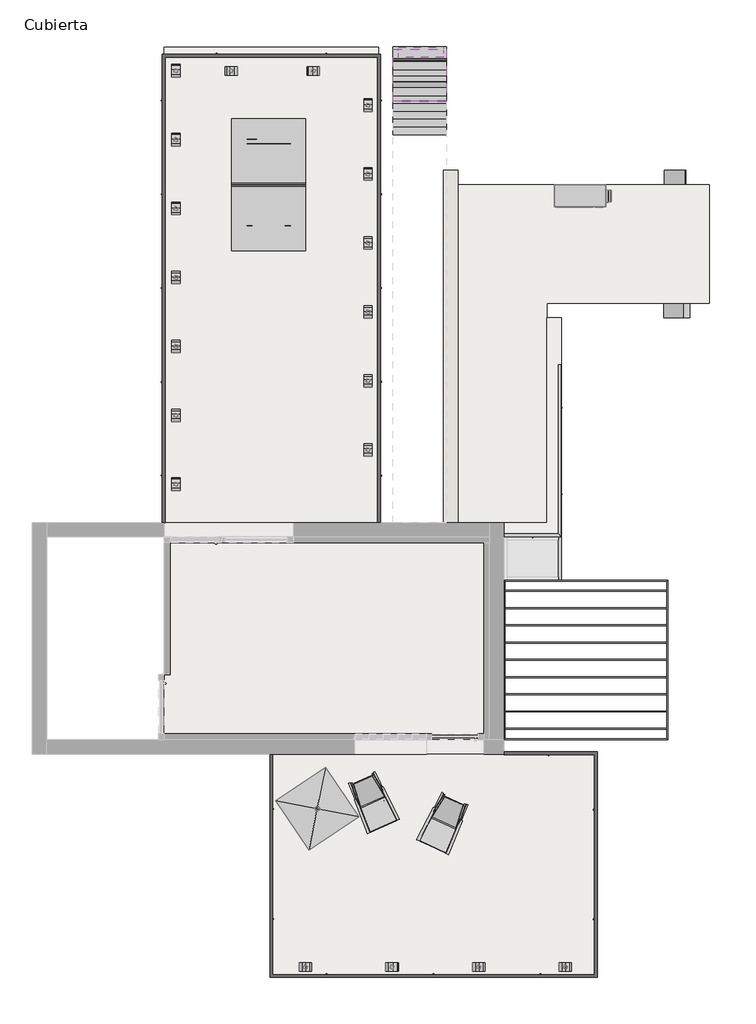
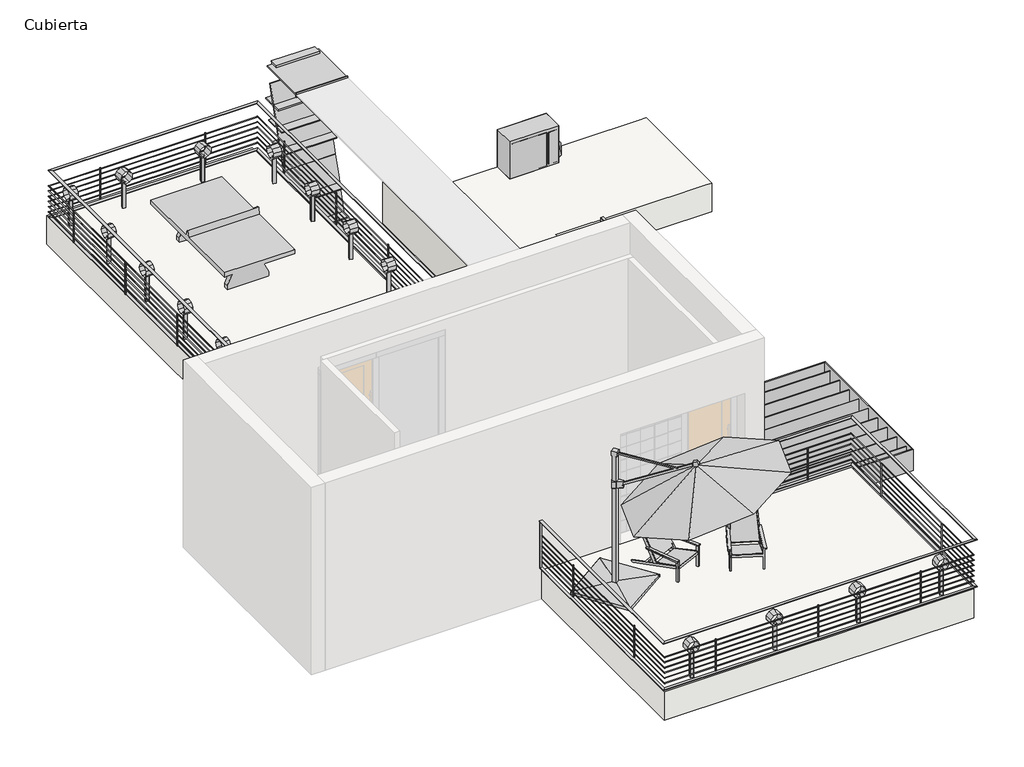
# One storey, part 3 of 3: 24 geographic elements, 14 plates, 13 beams, 11 members, 3 railings, 3 roofs, 2 slabs, 2 walls, 1 proxy.
"""IFC4 building model written with IfcOpenShell, lengths in millimetres."""

from ifc_helpers import new_model, si_unit, frame, origin, place, context, project, spatial, polyline, outline, extrude, faceted_brep, transform, mapped, element, save
from components import fl_barras_planas_fl_15x250_6944f389, generic_models_e5db0f82, geographic_element_01e02b02, geographic_element_6473c860, enscape_assetdefinition_air_conditioner_004_enscape_9204168d, enscape_assetdefinition_armchair_049_outdoor_enscape_4ad17b57, enscape_assetdefinition_outdoor_lamp_005_enscape_cb5cc8c5, montante_rectangular_montante_rectangular_1_x_9_1996176d, montante_rectangular_montante_rectangular_10_x_40_cm_63d3ba0e, montante_rectangular_montante_rectangular_5_x_10_cm_4e511d2b, panel_de_sistema_acristalado_2_678063c6, panel_de_sistema_acristalado_3_7e075f51, panel_de_sistema_acristalado_3_17f1fe4e, panel_de_sistema_acristalado_3_a226284c, panel_de_sistema_acristalado_3_9466de23, panel_de_sistema_acristalado_3_0af6a478, panel_de_sistema_acristalado_3_415e53f6, panel_de_sistema_uniforme_b9339d03, railing_87f6ecb8, railing_73caeaf0, railing_21b3ba1f

model = new_model("IFC4")

# Units and contexts
model_context = context("Model", 3, world=origin())
ifc_project = project(units=[si_unit("LENGTHUNIT", "METRE", prefix="MILLI")], contexts=[model_context])

# Site, building, storey
site = spatial("IfcSite", under=ifc_project)
building = spatial("IfcBuilding", under=site)
storey = spatial("IfcBuildingStorey", under=building, Name="Cubierta", Elevation=6000.0)

# Beams
placement = place(None, origin())
fl_barras_planas_fl_15x250_shape = fl_barras_planas_fl_15x250_6944f389(model_context)
element("IfcBeam", 1, ObjectType="FL - Barras planas : FL 15x250", at=placement, inside=storey, context=model_context, shape_type="MappedRepresentation", body=[
    mapped(fl_barras_planas_fl_15x250_shape, transform((3362.1362769, -5452.6669037, 5825.0), x_axis=(1.0, 0.0, 0.0), y_axis=(0.0, 1.0, 0.0), z_axis=(0.0, 0.0, 1.0))),
])
element("IfcBeam", 2, ObjectType="FL - Barras planas : FL 15x250", at=placement, inside=storey, context=model_context, shape_type="MappedRepresentation", body=[
    mapped(fl_barras_planas_fl_15x250_shape, transform((3362.1362769, -5752.6669037, 5825.0), x_axis=(1.0, 0.0, 0.0), y_axis=(0.0, 1.0, 0.0), z_axis=(0.0, 0.0, 1.0))),
])
element("IfcBeam", 3, ObjectType="FL - Barras planas : FL 15x250", at=placement, inside=storey, context=model_context, shape_type="MappedRepresentation", body=[
    mapped(fl_barras_planas_fl_15x250_shape, transform((3362.1362769, -6052.6669037, 5825.0), x_axis=(1.0, 0.0, 0.0), y_axis=(0.0, 1.0, 0.0), z_axis=(0.0, 0.0, 1.0))),
])
element("IfcBeam", 4, ObjectType="FL - Barras planas : FL 15x250", at=placement, inside=storey, context=model_context, shape_type="MappedRepresentation", body=[
    mapped(fl_barras_planas_fl_15x250_shape, transform((3362.1362769, -6352.6669037, 5825.0), x_axis=(1.0, 0.0, 0.0), y_axis=(0.0, 1.0, 0.0), z_axis=(0.0, 0.0, 1.0))),
])
element("IfcBeam", 5, ObjectType="FL - Barras planas : FL 15x250", at=placement, inside=storey, context=model_context, shape_type="MappedRepresentation", body=[
    mapped(fl_barras_planas_fl_15x250_shape, transform((3362.1362769, -6652.6669037, 5825.0), x_axis=(1.0, 0.0, 0.0), y_axis=(0.0, 1.0, 0.0), z_axis=(0.0, 0.0, 1.0))),
])
element("IfcBeam", 6, ObjectType="FL - Barras planas : FL 15x250", at=placement, inside=storey, context=model_context, shape_type="MappedRepresentation", body=[
    mapped(fl_barras_planas_fl_15x250_shape, transform((3362.1362769, -6952.6669037, 5825.0), x_axis=(1.0, 0.0, 0.0), y_axis=(0.0, 1.0, 0.0), z_axis=(0.0, 0.0, 1.0))),
])
element("IfcBeam", 7, ObjectType="FL - Barras planas : FL 15x250", at=placement, inside=storey, context=model_context, shape_type="MappedRepresentation", body=[
    mapped(fl_barras_planas_fl_15x250_shape, transform((3362.1362769, -7252.6669037, 5825.0), x_axis=(1.0, 0.0, 0.0), y_axis=(0.0, 1.0, 0.0), z_axis=(0.0, 0.0, 1.0))),
])
element("IfcBeam", 8, ObjectType="FL - Barras planas : FL 15x250", at=placement, inside=storey, context=model_context, shape_type="MappedRepresentation", body=[
    mapped(fl_barras_planas_fl_15x250_shape, transform((3362.1362769, -7552.6669037, 5825.0), x_axis=(1.0, 0.0, 0.0), y_axis=(0.0, 1.0, 0.0), z_axis=(0.0, 0.0, 1.0))),
])
element("IfcBeam", 9, ObjectType="FL - Barras planas : FL 15x250", at=placement, inside=storey, context=model_context, shape_type="MappedRepresentation", body=[
    mapped(fl_barras_planas_fl_15x250_shape, transform((3362.1362769, -7852.6669037, 5825.0), x_axis=(1.0, 0.0, 0.0), y_axis=(0.0, 1.0, 0.0), z_axis=(0.0, 0.0, 1.0))),
])
element("IfcBeam", 10, ObjectType="FL - Barras planas : FL 20x400", at=placement, inside=storey, context=model_context, shape_type="SweptSolid", body=[
    extrude(outline(polyline([(4768.7374579, -5282.6669037), (4788.7374579, -5262.6669037), (4788.7374579, -8042.6669037), (4768.7374579, -8022.6669037), (4768.7374579, -5282.6669037)])), frame((0.0, 0.0, 5600.0), z_axis=(0.0, 0.0, 1.0), x_axis=(1.0, 0.0, 0.0)), (0.0, 0.0, 1.0), 400.0),
])
element("IfcBeam", 11, ObjectType="FL - Barras planas : FL 20x400", at=placement, inside=storey, context=model_context, shape_type="SweptSolid", body=[
    extrude(outline(polyline([(4768.7374579, -8022.6669037), (4788.7374579, -8042.6669037), (1935.5350958, -8042.6669037), (1955.5350958, -8022.6669037), (4768.7374579, -8022.6669037)])), frame((0.0, 0.0, 5600.0), z_axis=(0.0, 0.0, 1.0), x_axis=(1.0, 0.0, 0.0)), (0.0, 0.0, 1.0), 400.0),
])
element("IfcBeam", 12, ObjectType="FL - Barras planas : FL 20x400", at=placement, inside=storey, context=model_context, shape_type="SweptSolid", body=[
    extrude(outline(polyline([(1955.5350958, -8022.6669037), (1935.5350958, -8042.6669037), (1935.5350958, -5262.6669037), (1955.5350958, -5282.6669037), (1955.5350958, -8022.6669037)])), frame((0.0, 0.0, 5600.0), z_axis=(0.0, 0.0, 1.0), x_axis=(1.0, 0.0, 0.0)), (0.0, 0.0, 1.0), 400.0),
])
element("IfcBeam", 13, ObjectType="FL - Barras planas : FL 20x400", at=placement, inside=storey, context=model_context, shape_type="SweptSolid", body=[
    extrude(outline(polyline([(1955.5350958, -5282.6669037), (1935.5350958, -5262.6669037), (4788.7374579, -5262.6669037), (4768.7374579, -5282.6669037), (1955.5350958, -5282.6669037)])), frame((0.0, 0.0, 5600.0), z_axis=(0.0, 0.0, 1.0), x_axis=(1.0, 0.0, 0.0)), (0.0, 0.0, 1.0), 400.0),
])

# Proxy
generic_models_shape = generic_models_e5db0f82(model_context)
element("IfcBuildingElementProxy", 14, Name="Marco angulo : Marco angulo", ObjectType="Marco angulo : Marco angulo", at=placement, inside=storey, context=model_context, shape_type="MappedRepresentation", body=[
    mapped(generic_models_shape, transform((0.0, 0.0, 0.0), x_axis=(1.0, 0.0, 0.0), y_axis=(0.0, 1.0, 0.0), z_axis=(0.0, 0.0, 1.0))),
])

# Geographic elements
geographic_element_shape = geographic_element_01e02b02(model_context)
element("IfcGeographicElement", 15, ObjectType="Enscape AssetDefinition - Sunshade 001 : Enscape AssetDefinition - Sunshade 001", at=placement, inside=storey, context=model_context, shape_type="MappedRepresentation", body=[
    mapped(geographic_element_shape, transform((-1316.5430875, -9242.6669037, 6250.0), x_axis=(0.7547095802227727, -0.6560590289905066, 0.0), y_axis=(0.6560590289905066, 0.7547095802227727, 0.0), z_axis=(0.0, 0.0, 1.0))),
])
geographic_element_2_shape = geographic_element_6473c860(model_context)
element("IfcGeographicElement", 16, ObjectType="Enscape AssetDefinition - Ping-Pong Table 001 : Enscape AssetDefinition - Ping-Pong Table 001", at=placement, inside=storey, context=model_context, shape_type="MappedRepresentation", body=[
    mapped(geographic_element_2_shape, transform((-2163.1025942, 1619.072658, 6250.0), x_axis=(1.0, 0.0, 0.0), y_axis=(0.0, 1.0, 0.0), z_axis=(0.0, 0.0, 1.0))),
])
enscape_assetdefinition_air_conditioner_004_enscape_shape = enscape_assetdefinition_air_conditioner_004_enscape_9204168d(model_context)
element("IfcGeographicElement", 17, ObjectType="Enscape AssetDefinition - Air Conditioner 004 : Enscape AssetDefinition - Air Conditioner 004", at=placement, inside=storey, context=model_context, shape_type="MappedRepresentation", body=[
    mapped(enscape_assetdefinition_air_conditioner_004_enscape_shape, transform((3230.6115806, 1387.4022959, 6250.0), x_axis=(1.0, 0.0, 0.0), y_axis=(0.0, 1.0, 0.0), z_axis=(0.0, 0.0, 1.0))),
])
enscape_assetdefinition_armchair_049_outdoor_enscape_shape = enscape_assetdefinition_armchair_049_outdoor_enscape_4ad17b57(model_context)
element("IfcGeographicElement", 18, ObjectType="Enscape AssetDefinition - Armchair 049 Outdoor : Enscape AssetDefinition - Armchair 049 Outdoor", at=placement, inside=storey, context=model_context, shape_type="MappedRepresentation", body=[
    mapped(enscape_assetdefinition_armchair_049_outdoor_enscape_shape, transform((886.8974058, -9492.6669037, 6250.0), x_axis=(0.9068449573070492, -0.42146437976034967, 0.0), y_axis=(0.42146437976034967, 0.9068449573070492, 0.0), z_axis=(0.0, 0.0, 1.0))),
])
element("IfcGeographicElement", 19, ObjectType="Enscape AssetDefinition - Armchair 049 Outdoor : Enscape AssetDefinition - Armchair 049 Outdoor", at=placement, inside=storey, context=model_context, shape_type="MappedRepresentation", body=[
    mapped(enscape_assetdefinition_armchair_049_outdoor_enscape_shape, transform((-350.8601801, -9129.5831029, 6250.0), x_axis=(0.9135454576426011, 0.4067366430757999, 0.0), y_axis=(-0.4067366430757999, 0.9135454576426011, 0.0), z_axis=(0.0, 0.0, 1.0))),
])
enscape_assetdefinition_outdoor_lamp_005_enscape_shape = enscape_assetdefinition_outdoor_lamp_005_enscape_cb5cc8c5(model_context)
element("IfcGeographicElement", 20, ObjectType="Enscape AssetDefinition - Outdoor Lamp 005 : Enscape AssetDefinition - Outdoor Lamp 005", at=placement, inside=storey, context=model_context, shape_type="MappedRepresentation", body=[
    mapped(enscape_assetdefinition_outdoor_lamp_005_enscape_shape, transform((-3781.0601801, 3600.0, 6250.0), x_axis=(0.0, 1.0, 0.0), y_axis=(-1.0, 0.0, 0.0), z_axis=(0.0, 0.0, 1.0))),
])
element("IfcGeographicElement", 21, ObjectType="Enscape AssetDefinition - Outdoor Lamp 005 : Enscape AssetDefinition - Outdoor Lamp 005", at=placement, inside=storey, context=model_context, shape_type="MappedRepresentation", body=[
    mapped(enscape_assetdefinition_outdoor_lamp_005_enscape_shape, transform((2998.9398199, -12000.0, 6250.0), x_axis=(1.0, 0.0, 0.0), y_axis=(0.0, 1.0, 0.0), z_axis=(0.0, 0.0, 1.0))),
])
element("IfcGeographicElement", 22, ObjectType="Enscape AssetDefinition - Outdoor Lamp 005 : Enscape AssetDefinition - Outdoor Lamp 005", at=placement, inside=storey, context=model_context, shape_type="MappedRepresentation", body=[
    mapped(enscape_assetdefinition_outdoor_lamp_005_enscape_shape, transform((1491.6012558, -12000.0, 6250.0), x_axis=(1.0, 0.0, 0.0), y_axis=(0.0, 1.0, 0.0), z_axis=(0.0, 0.0, 1.0))),
])
element("IfcGeographicElement", 23, ObjectType="Enscape AssetDefinition - Outdoor Lamp 005 : Enscape AssetDefinition - Outdoor Lamp 005", at=placement, inside=storey, context=model_context, shape_type="MappedRepresentation", body=[
    mapped(enscape_assetdefinition_outdoor_lamp_005_enscape_shape, transform((-18.3987442, -12000.0, 6250.0), x_axis=(1.0, 0.0, 0.0), y_axis=(0.0, 1.0, 0.0), z_axis=(0.0, 0.0, 1.0))),
])
element("IfcGeographicElement", 24, ObjectType="Enscape AssetDefinition - Outdoor Lamp 005 : Enscape AssetDefinition - Outdoor Lamp 005", at=placement, inside=storey, context=model_context, shape_type="MappedRepresentation", body=[
    mapped(enscape_assetdefinition_outdoor_lamp_005_enscape_shape, transform((-1528.3987442, -12000.0, 6250.0), x_axis=(1.0, 0.0, 0.0), y_axis=(0.0, 1.0, 0.0), z_axis=(0.0, 0.0, 1.0))),
])
element("IfcGeographicElement", 25, ObjectType="Enscape AssetDefinition - Outdoor Lamp 005 : Enscape AssetDefinition - Outdoor Lamp 005", at=placement, inside=storey, context=model_context, shape_type="MappedRepresentation", body=[
    mapped(enscape_assetdefinition_outdoor_lamp_005_enscape_shape, transform((-3781.0601801, 2400.0, 6250.0), x_axis=(0.0, 1.0, 0.0), y_axis=(-1.0, 0.0, 0.0), z_axis=(0.0, 0.0, 1.0))),
])
element("IfcGeographicElement", 26, ObjectType="Enscape AssetDefinition - Outdoor Lamp 005 : Enscape AssetDefinition - Outdoor Lamp 005", at=placement, inside=storey, context=model_context, shape_type="MappedRepresentation", body=[
    mapped(enscape_assetdefinition_outdoor_lamp_005_enscape_shape, transform((-3781.0601801, 1200.0, 6250.0), x_axis=(0.0, 1.0, 0.0), y_axis=(-1.0, 0.0, 0.0), z_axis=(0.0, 0.0, 1.0))),
])
element("IfcGeographicElement", 27, ObjectType="Enscape AssetDefinition - Outdoor Lamp 005 : Enscape AssetDefinition - Outdoor Lamp 005", at=placement, inside=storey, context=model_context, shape_type="MappedRepresentation", body=[
    mapped(enscape_assetdefinition_outdoor_lamp_005_enscape_shape, transform((-3781.0601801, 0.0, 6250.0), x_axis=(0.0, 1.0, 0.0), y_axis=(-1.0, 0.0, 0.0), z_axis=(0.0, 0.0, 1.0))),
])
element("IfcGeographicElement", 28, ObjectType="Enscape AssetDefinition - Outdoor Lamp 005 : Enscape AssetDefinition - Outdoor Lamp 005", at=placement, inside=storey, context=model_context, shape_type="MappedRepresentation", body=[
    mapped(enscape_assetdefinition_outdoor_lamp_005_enscape_shape, transform((-3781.0601801, -1200.0, 6250.0), x_axis=(0.0, 1.0, 0.0), y_axis=(-1.0, 0.0, 0.0), z_axis=(0.0, 0.0, 1.0))),
])
element("IfcGeographicElement", 29, ObjectType="Enscape AssetDefinition - Outdoor Lamp 005 : Enscape AssetDefinition - Outdoor Lamp 005", at=placement, inside=storey, context=model_context, shape_type="MappedRepresentation", body=[
    mapped(enscape_assetdefinition_outdoor_lamp_005_enscape_shape, transform((-3781.0601801, -2400.0, 6250.0), x_axis=(0.0, 1.0, 0.0), y_axis=(-1.0, 0.0, 0.0), z_axis=(0.0, 0.0, 1.0))),
])
element("IfcGeographicElement", 30, ObjectType="Enscape AssetDefinition - Outdoor Lamp 005 : Enscape AssetDefinition - Outdoor Lamp 005", at=placement, inside=storey, context=model_context, shape_type="MappedRepresentation", body=[
    mapped(enscape_assetdefinition_outdoor_lamp_005_enscape_shape, transform((-3781.0601801, -3600.0, 6250.0), x_axis=(0.0, 1.0, 0.0), y_axis=(-1.0, 0.0, 0.0), z_axis=(0.0, 0.0, 1.0))),
])
element("IfcGeographicElement", 31, ObjectType="Enscape AssetDefinition - Outdoor Lamp 005 : Enscape AssetDefinition - Outdoor Lamp 005", at=placement, inside=storey, context=model_context, shape_type="MappedRepresentation", body=[
    mapped(enscape_assetdefinition_outdoor_lamp_005_enscape_shape, transform((-431.9203602, -3000.0, 6250.0), x_axis=(0.0, 1.0, 0.0), y_axis=(-1.0, 0.0, 0.0), z_axis=(0.0, 0.0, 1.0))),
])
element("IfcGeographicElement", 32, ObjectType="Enscape AssetDefinition - Outdoor Lamp 005 : Enscape AssetDefinition - Outdoor Lamp 005", at=placement, inside=storey, context=model_context, shape_type="MappedRepresentation", body=[
    mapped(enscape_assetdefinition_outdoor_lamp_005_enscape_shape, transform((-431.9203602, -1800.0, 6250.0), x_axis=(0.0, 1.0, 0.0), y_axis=(-1.0, 0.0, 0.0), z_axis=(0.0, 0.0, 1.0))),
])
element("IfcGeographicElement", 33, ObjectType="Enscape AssetDefinition - Outdoor Lamp 005 : Enscape AssetDefinition - Outdoor Lamp 005", at=placement, inside=storey, context=model_context, shape_type="MappedRepresentation", body=[
    mapped(enscape_assetdefinition_outdoor_lamp_005_enscape_shape, transform((-431.9203602, -600.0, 6250.0), x_axis=(0.0, 1.0, 0.0), y_axis=(-1.0, 0.0, 0.0), z_axis=(0.0, 0.0, 1.0))),
])
element("IfcGeographicElement", 34, ObjectType="Enscape AssetDefinition - Outdoor Lamp 005 : Enscape AssetDefinition - Outdoor Lamp 005", at=placement, inside=storey, context=model_context, shape_type="MappedRepresentation", body=[
    mapped(enscape_assetdefinition_outdoor_lamp_005_enscape_shape, transform((-431.9203602, 600.0, 6250.0), x_axis=(0.0, 1.0, 0.0), y_axis=(-1.0, 0.0, 0.0), z_axis=(0.0, 0.0, 1.0))),
])
element("IfcGeographicElement", 35, ObjectType="Enscape AssetDefinition - Outdoor Lamp 005 : Enscape AssetDefinition - Outdoor Lamp 005", at=placement, inside=storey, context=model_context, shape_type="MappedRepresentation", body=[
    mapped(enscape_assetdefinition_outdoor_lamp_005_enscape_shape, transform((-431.9203602, 1800.0, 6250.0), x_axis=(0.0, 1.0, 0.0), y_axis=(-1.0, 0.0, 0.0), z_axis=(0.0, 0.0, 1.0))),
])
element("IfcGeographicElement", 36, ObjectType="Enscape AssetDefinition - Outdoor Lamp 005 : Enscape AssetDefinition - Outdoor Lamp 005", at=placement, inside=storey, context=model_context, shape_type="MappedRepresentation", body=[
    mapped(enscape_assetdefinition_outdoor_lamp_005_enscape_shape, transform((-431.9203602, 3000.0, 6250.0), x_axis=(0.0, 1.0, 0.0), y_axis=(-1.0, 0.0, 0.0), z_axis=(0.0, 0.0, 1.0))),
])
element("IfcGeographicElement", 37, ObjectType="Enscape AssetDefinition - Outdoor Lamp 005 : Enscape AssetDefinition - Outdoor Lamp 005", at=placement, inside=storey, context=model_context, shape_type="MappedRepresentation", body=[
    mapped(enscape_assetdefinition_outdoor_lamp_005_enscape_shape, transform((-1381.0601801, 3602.3330963, 6250.0), x_axis=(-1.0, 0.0, 0.0), y_axis=(0.0, -1.0, 0.0), z_axis=(0.0, 0.0, 1.0))),
])
element("IfcGeographicElement", 38, ObjectType="Enscape AssetDefinition - Outdoor Lamp 005 : Enscape AssetDefinition - Outdoor Lamp 005", at=placement, inside=storey, context=model_context, shape_type="MappedRepresentation", body=[
    mapped(enscape_assetdefinition_outdoor_lamp_005_enscape_shape, transform((-2812.1203602, 3602.3330963, 6250.0), x_axis=(-1.0, 0.0, 0.0), y_axis=(0.0, -1.0, 0.0), z_axis=(0.0, 0.0, 1.0))),
])

# Members
montante_rectangular_montante_rectangular_1_x_9_shape = montante_rectangular_montante_rectangular_1_x_9_1996176d(model_context)
element("IfcMember", 39, ObjectType="Montante rectangular : Montante rectangular - 1 x 9", at=placement, inside=storey, context=model_context, shape_type="MappedRepresentation", body=[
    mapped(montante_rectangular_montante_rectangular_1_x_9_shape, transform((935.5350958, 3069.5553185, 7640.0), x_axis=(0.0, -1.0, 0.0), y_axis=(0.0, 0.0, -1.0), z_axis=(1.0, 0.0, 0.0))),
])
montante_rectangular_montante_rectangular_10_x_40_cm_shape = montante_rectangular_montante_rectangular_10_x_40_cm_63d3ba0e(model_context)
element("IfcMember", 40, ObjectType="Montante rectangular : Montante rectangular - 10 x 40 cm", at=placement, inside=storey, context=model_context, shape_type="MappedRepresentation", body=[
    mapped(montante_rectangular_montante_rectangular_10_x_40_cm_shape, transform((-0.8563883, 2740.4626312, 3153.0345505), x_axis=(0.0, 0.2726025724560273, 0.9621267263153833), y_axis=(0.0, 0.9621267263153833, -0.2726025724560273), z_axis=(-1.0, 0.0, 0.0))),
])
element("IfcMember", 41, ObjectType="Montante rectangular : Montante rectangular - 10 x 40 cm", at=placement, inside=storey, context=model_context, shape_type="MappedRepresentation", body=[
    mapped(montante_rectangular_montante_rectangular_10_x_40_cm_shape, transform((-0.8563883, 2876.4143555, 3632.8641659), x_axis=(0.0, 0.2726025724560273, 0.9621267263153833), y_axis=(0.0, 0.9621267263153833, -0.2726025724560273), z_axis=(-1.0, 0.0, 0.0))),
])
element("IfcMember", 42, ObjectType="Montante rectangular : Montante rectangular - 10 x 40 cm", at=placement, inside=storey, context=model_context, shape_type="MappedRepresentation", body=[
    mapped(montante_rectangular_montante_rectangular_10_x_40_cm_shape, transform((-0.8563883, 3012.3660798, 4112.6937812), x_axis=(0.0, 0.2726025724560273, 0.9621267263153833), y_axis=(0.0, 0.9621267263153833, -0.2726025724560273), z_axis=(-1.0, 0.0, 0.0))),
])
element("IfcMember", 43, ObjectType="Montante rectangular : Montante rectangular - 10 x 40 cm", at=placement, inside=storey, context=model_context, shape_type="MappedRepresentation", body=[
    mapped(montante_rectangular_montante_rectangular_10_x_40_cm_shape, transform((-0.8563883, 3148.3178042, 4592.5233965), x_axis=(0.0, 0.2726025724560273, 0.9621267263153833), y_axis=(0.0, 0.9621267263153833, -0.2726025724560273), z_axis=(-1.0, 0.0, 0.0))),
])
element("IfcMember", 44, ObjectType="Montante rectangular : Montante rectangular - 10 x 40 cm", at=placement, inside=storey, context=model_context, shape_type="MappedRepresentation", body=[
    mapped(montante_rectangular_montante_rectangular_10_x_40_cm_shape, transform((-0.8563883, 3284.2695285, 5072.3530118), x_axis=(0.0, 0.2726025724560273, 0.9621267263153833), y_axis=(0.0, 0.9621267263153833, -0.2726025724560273), z_axis=(-1.0, 0.0, 0.0))),
])
element("IfcMember", 45, ObjectType="Montante rectangular : Montante rectangular - 10 x 40 cm", at=placement, inside=storey, context=model_context, shape_type="MappedRepresentation", body=[
    mapped(montante_rectangular_montante_rectangular_10_x_40_cm_shape, transform((-0.8563883, 3657.8641736, 6371.7694418), x_axis=(0.0, 0.28633736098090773, 0.9581288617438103), y_axis=(0.0, 0.9581288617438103, -0.28633736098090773), z_axis=(-1.0, 0.0, 0.0))),
])
element("IfcMember", 46, ObjectType="Montante rectangular : Montante rectangular - 10 x 40 cm", at=placement, inside=storey, context=model_context, shape_type="MappedRepresentation", body=[
    mapped(montante_rectangular_montante_rectangular_10_x_40_cm_shape, transform((-0.8563883, 3765.341942, 6731.4065899), x_axis=(0.0, 0.28633736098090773, 0.9581288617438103), y_axis=(0.0, 0.9581288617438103, -0.28633736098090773), z_axis=(-1.0, 0.0, 0.0))),
])
element("IfcMember", 47, ObjectType="Montante rectangular : Montante rectangular - 10 x 40 cm", at=placement, inside=storey, context=model_context, shape_type="MappedRepresentation", body=[
    mapped(montante_rectangular_montante_rectangular_10_x_40_cm_shape, transform((-0.8563883, 3420.2212528, 5552.1826271), x_axis=(0.0, 0.2726025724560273, 0.9621267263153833), y_axis=(0.0, 0.9621267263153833, -0.2726025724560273), z_axis=(-1.0, 0.0, 0.0))),
])
element("IfcMember", 48, ObjectType="Montante rectangular : Montante rectangular - 10 x 40 cm", at=placement, inside=storey, context=model_context, shape_type="MappedRepresentation", body=[
    mapped(montante_rectangular_montante_rectangular_10_x_40_cm_shape, transform((-0.8563883, 3872.8197104, 7091.0437381), x_axis=(0.0, 0.28633736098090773, 0.9581288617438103), y_axis=(0.0, 0.9581288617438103, -0.28633736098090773), z_axis=(-1.0, 0.0, 0.0))),
])
montante_rectangular_montante_rectangular_5_x_10_cm_shape = montante_rectangular_montante_rectangular_5_x_10_cm_4e511d2b(model_context)
element("IfcMember", 49, ObjectType="Montante rectangular : Montante rectangular - 5 x 10 cm", at=placement, inside=storey, context=model_context, shape_type="MappedRepresentation", body=[
    mapped(montante_rectangular_montante_rectangular_5_x_10_cm_shape, transform((2935.5350958, -4512.6669037, 5650.0), x_axis=(1.0, 0.0, 0.0), y_axis=(0.0, 0.0, -1.0), z_axis=(0.0, 1.0, 0.0))),
])

# Plates
panel_de_sistema_acristalado_2_shape = panel_de_sistema_acristalado_2_678063c6(model_context)
element("IfcPlate", 50, ObjectType="Panel de sistema : Acristalado 2", at=placement, inside=storey, context=model_context, shape_type="MappedRepresentation", body=[
    mapped(panel_de_sistema_acristalado_2_shape, transform((4945.3152245, -443.1853621, 1883.9616625), x_axis=(-0.15973462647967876, 0.0, -0.987159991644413), y_axis=(-0.987159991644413, 0.0, 0.15973462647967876), z_axis=(0.0, 1.0, 0.0))),
])
panel_de_sistema_acristalado_3_shape = panel_de_sistema_acristalado_3_7e075f51(model_context)
element("IfcPlate", 51, ObjectType="Panel de sistema : Acristalado 3", at=placement, inside=storey, context=model_context, shape_type="MappedRepresentation", body=[
    mapped(panel_de_sistema_acristalado_3_shape, transform((-0.8563883, 3604.1194308, 6191.931264), x_axis=(0.0, 0.28633736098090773, 0.9581288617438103), y_axis=(0.0, -0.9581288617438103, 0.28633736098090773), z_axis=(1.0, 0.0, 0.0))),
])
element("IfcPlate", 52, ObjectType="Panel de sistema : Acristalado 3", at=placement, inside=storey, context=model_context, shape_type="MappedRepresentation", body=[
    mapped(panel_de_sistema_acristalado_3_shape, transform((-0.8563883, 3926.5644532, 7270.8819159), x_axis=(0.0, 0.28633736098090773, 0.9581288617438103), y_axis=(0.0, -0.9581288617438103, 0.28633736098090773), z_axis=(1.0, 0.0, 0.0))),
])
panel_de_sistema_acristalado_3_2_shape = panel_de_sistema_acristalado_3_17f1fe4e(model_context)
element("IfcPlate", 53, ObjectType="Panel de sistema : Acristalado 3", at=placement, inside=storey, context=model_context, shape_type="MappedRepresentation", body=[
    mapped(panel_de_sistema_acristalado_3_2_shape, transform((-0.8563883, 2672.4811914, 2913.1000574), x_axis=(0.0, 0.2726025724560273, 0.9621267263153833), y_axis=(0.0, -0.9621267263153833, 0.2726025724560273), z_axis=(1.0, 0.0, 0.0))),
])
panel_de_sistema_acristalado_3_3_shape = panel_de_sistema_acristalado_3_a226284c(model_context)
element("IfcPlate", 54, ObjectType="Panel de sistema : Acristalado 3", at=placement, inside=storey, context=model_context, shape_type="MappedRepresentation", body=[
    mapped(panel_de_sistema_acristalado_3_3_shape, transform((-0.8563883, 3711.6030578, 6551.5880159), x_axis=(0.0, 0.28633736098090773, 0.9581288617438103), y_axis=(0.0, -0.9581288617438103, 0.28633736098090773), z_axis=(1.0, 0.0, 0.0))),
])
element("IfcPlate", 55, ObjectType="Panel de sistema : Acristalado 3", at=placement, inside=storey, context=model_context, shape_type="MappedRepresentation", body=[
    mapped(panel_de_sistema_acristalado_3_3_shape, transform((-0.8563883, 3819.0808262, 6911.225164), x_axis=(0.0, 0.28633736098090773, 0.9581288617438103), y_axis=(0.0, -0.9581288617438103, 0.28633736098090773), z_axis=(1.0, 0.0, 0.0))),
])
panel_de_sistema_acristalado_3_4_shape = panel_de_sistema_acristalado_3_9466de23(model_context)
element("IfcPlate", 56, ObjectType="Panel de sistema : Acristalado 3", at=placement, inside=storey, context=model_context, shape_type="MappedRepresentation", body=[
    mapped(panel_de_sistema_acristalado_3_4_shape, transform((-0.8563883, 2808.4384933, 3392.9493582), x_axis=(0.0, 0.2726025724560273, 0.9621267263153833), y_axis=(0.0, -0.9621267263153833, 0.2726025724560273), z_axis=(1.0, 0.0, 0.0))),
])
element("IfcPlate", 57, ObjectType="Panel de sistema : Acristalado 3", at=placement, inside=storey, context=model_context, shape_type="MappedRepresentation", body=[
    mapped(panel_de_sistema_acristalado_3_4_shape, transform((-0.8563883, 2944.3902177, 3872.7789735), x_axis=(0.0, 0.2726025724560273, 0.9621267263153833), y_axis=(0.0, -0.9621267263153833, 0.2726025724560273), z_axis=(1.0, 0.0, 0.0))),
])
element("IfcPlate", 58, ObjectType="Panel de sistema : Acristalado 3", at=placement, inside=storey, context=model_context, shape_type="MappedRepresentation", body=[
    mapped(panel_de_sistema_acristalado_3_4_shape, transform((-0.8563883, 3080.341942, 4352.6085888), x_axis=(0.0, 0.2726025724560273, 0.9621267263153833), y_axis=(0.0, -0.9621267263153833, 0.2726025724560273), z_axis=(1.0, 0.0, 0.0))),
])
element("IfcPlate", 59, ObjectType="Panel de sistema : Acristalado 3", at=placement, inside=storey, context=model_context, shape_type="MappedRepresentation", body=[
    mapped(panel_de_sistema_acristalado_3_4_shape, transform((-0.8563883, 3216.2936663, 4832.4382041), x_axis=(0.0, 0.2726025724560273, 0.9621267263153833), y_axis=(0.0, -0.9621267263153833, 0.2726025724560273), z_axis=(1.0, 0.0, 0.0))),
])
element("IfcPlate", 60, ObjectType="Panel de sistema : Acristalado 3", at=placement, inside=storey, context=model_context, shape_type="MappedRepresentation", body=[
    mapped(panel_de_sistema_acristalado_3_4_shape, transform((-0.8563883, 3352.2453907, 5312.2678194), x_axis=(0.0, 0.2726025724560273, 0.9621267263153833), y_axis=(0.0, -0.9621267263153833, 0.2726025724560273), z_axis=(1.0, 0.0, 0.0))),
])
panel_de_sistema_acristalado_3_5_shape = panel_de_sistema_acristalado_3_0af6a478(model_context)
element("IfcPlate", 61, ObjectType="Panel de sistema : Acristalado 3", at=placement, inside=storey, context=model_context, shape_type="MappedRepresentation", body=[
    mapped(panel_de_sistema_acristalado_3_5_shape, transform((-0.8563883, 3488.2026926, 5792.1171203), x_axis=(0.0, 0.2726025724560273, 0.9621267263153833), y_axis=(0.0, -0.9621267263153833, 0.2726025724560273), z_axis=(1.0, 0.0, 0.0))),
])
panel_de_sistema_acristalado_3_6_shape = panel_de_sistema_acristalado_3_415e53f6(model_context)
element("IfcPlate", 62, ObjectType="Panel de sistema : Acristalado 3", at=placement, inside=storey, context=model_context, shape_type="MappedRepresentation", body=[
    mapped(panel_de_sistema_acristalado_3_6_shape, transform((-0.8563883, 3528.4442074, 7640.0), x_axis=(0.0, -1.0, 0.0), y_axis=(0.0, 0.0, -1.0), z_axis=(1.0, 0.0, 0.0))),
])
panel_de_sistema_uniforme_shape = panel_de_sistema_uniforme_b9339d03(model_context)
element("IfcPlate", 63, ObjectType="Panel de sistema : Uniforme", at=placement, inside=storey, context=model_context, shape_type="MappedRepresentation", body=[
    mapped(panel_de_sistema_uniforme_shape, transform((4945.3152245, -693.1853621, 1883.9616625), x_axis=(-0.15973462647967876, 0.0, -0.987159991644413), y_axis=(-0.987159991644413, 0.0, 0.15973462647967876), z_axis=(0.0, 1.0, 0.0))),
])

# Railings
railing_shape = railing_87f6ecb8(model_context)
element("IfcRailing", 64, ObjectType="Pletina y tubos", at=placement, inside=storey, context=model_context, shape_type="MappedRepresentation", body=[
    mapped(railing_shape, transform((0.0, 0.0, 0.0), x_axis=(1.0, 0.0, 0.0), y_axis=(0.0, 1.0, 0.0), z_axis=(0.0, 0.0, 1.0))),
])
railing_2_shape = railing_73caeaf0(model_context)
element("IfcRailing", 65, ObjectType="Pletina y tubos", at=placement, inside=storey, context=model_context, shape_type="MappedRepresentation", body=[
    mapped(railing_2_shape, transform((0.0, 0.0, 0.0), x_axis=(1.0, 0.0, 0.0), y_axis=(0.0, 1.0, 0.0), z_axis=(0.0, 0.0, 1.0))),
])
railing_3_shape = railing_21b3ba1f(model_context)
element("IfcRailing", 66, ObjectType="Pletina y tubos", at=placement, inside=storey, context=model_context, shape_type="MappedRepresentation", body=[
    mapped(railing_3_shape, transform((0.0, 0.0, 0.0), x_axis=(1.0, 0.0, 0.0), y_axis=(0.0, 1.0, 0.0), z_axis=(0.0, 0.0, 1.0))),
])

# Roofs
element("IfcRoof", 67, ObjectType="Plana invertida transitable", at=placement, inside=storey, context=model_context, shape_type="SweptSolid", body=[
    extrude(outline(polyline([(3518.9398199, -8292.6669037), (3518.9398199, -12142.6669037), (-2103.1025942, -12142.6669037), (-2103.1025942, -8292.6669037), (1935.5350958, -8292.6669037), (3518.9398199, -8292.6669037)])), frame((0.0, 0.0, 5700.0), z_axis=(0.0, 0.0, 1.0), x_axis=(1.0, 0.0, 0.0)), (0.0, 0.0, 1.0), 550.0),
])
element("IfcRoof", 68, ObjectType="Plana invertida transitable", at=placement, inside=storey, context=model_context, shape_type="SweptSolid", body=[
    extrude(outline(polyline([(-3981.0601801, 4011.8960075), (-250.8601801, 4011.8960075), (-250.8601801, -4262.6669037), (-3981.0601801, -4262.6669037), (-3981.0601801, 4011.8960075)])), frame((0.0, 0.0, 5700.0), z_axis=(0.0, 0.0, 1.0), x_axis=(1.0, 0.0, 0.0)), (0.0, 0.0, 1.0), 550.0),
])
element("IfcRoof", 69, ObjectType="Plana invertida transitable", at=placement, inside=storey, context=model_context, shape_type="Brep", body=[
    faceted_brep([(945.5350958, 1619.072658, 5700.0), (1135.5350958, 1619.072658, 5700.0), (5515.6880653, 1619.072658, 5700.0), (5515.6880653, -443.1853621, 5700.0), (2685.5350958, -443.1853621, 5700.0), (2685.5350958, -4262.6669037, 5700.0), (945.5350958, -4262.6669037, 5700.0), (5515.6880653, 1619.072658, 6250.0), (5394.328842, 1619.072658, 6250.0), (1135.5350958, 1619.072658, 6250.0), (945.5350958, 1619.072658, 6250.0), (945.5350958, -4262.6669037, 6250.0), (1135.5350958, -4262.6669037, 6250.0), (2685.5350958, -4262.6669037, 6250.0), (2685.5350958, -443.1853621, 6250.0), (5394.328842, -443.1853621, 6250.0), (5515.6880653, -443.1853621, 6250.0)], [[[0, 1, 2, 3, 4, 5, 6]], [[7, 8, 9, 10, 11, 12, 13, 14, 15, 16]], [[10, 9, 8, 7, 2, 1, 0]], [[7, 16, 3, 2]], [[16, 15, 14, 4, 3]], [[14, 13, 5, 4]], [[13, 12, 11, 6, 5]], [[11, 10, 0, 6]]]),
])

# Slabs
element("IfcSlab", 70, ObjectType="Con bovedilla cerámica - 40 cm", at=placement, inside=storey, context=model_context, shape_type="Brep", body=[
    faceted_brep([(-3981.0601801, -4512.6669037, 5700.0), (1685.5350958, -4512.6669037, 5700.0), (1685.5350958, -8042.6669037, 5700.0), (-3981.0601801, -8042.6669037, 5700.0), (-3981.0601801, -6912.6669037, 5700.0), (-3981.0601801, -4512.6669037, 6100.0), (-3981.0601801, -4612.6669037, 6100.0), (-3981.0601801, -6912.6669037, 6100.0), (-3981.0601801, -7942.6669037, 6100.0), (-3981.0601801, -8042.6669037, 6100.0), (585.5350958, -8042.6669037, 6100.0), (1585.5350958, -8042.6669037, 6100.0), (1685.5350958, -8042.6669037, 6100.0), (1685.5350958, -4612.6669037, 6100.0), (1685.5350958, -4512.6669037, 6100.0), (-3931.0601801, -4512.6669037, 6100.0)], [[[0, 1, 2, 3, 4]], [[5, 6, 7, 8, 9, 10, 11, 12, 13, 14, 15]], [[1, 0, 5, 15, 14]], [[2, 1, 14, 13, 12]], [[3, 2, 12, 11, 10, 9]], [[0, 4, 3, 9, 8, 7, 6, 5]]]),
])
element("IfcSlab", 71, ObjectType="Acero 2 cm", at=placement, inside=storey, context=model_context, shape_type="SweptSolid", body=[
    extrude(outline(polyline([(2685.5350958, -693.1853621), (2935.5350958, -693.1853621), (2935.5350958, -4512.6669037), (1935.5350958, -4512.6669037), (1935.5350958, -4262.6669037), (2685.5350958, -4262.6669037), (2685.5350958, -693.1853621)])), frame((0.0, 0.0, 6230.0), z_axis=(0.0, 0.0, 1.0), x_axis=(1.0, 0.0, 0.0)), (0.0, 0.0, 1.0), 20.0),
])

# Walls
element("IfcWall", 72, ObjectType="Hormigón - 25", at=placement, inside=storey, context=model_context, shape_type="Brep", body=[
    faceted_brep([(885.5350958, 1869.072658, 5700.0), (885.5350958, -4262.6669037, 5700.0), (885.5350958, -4262.6669037, 7000.0), (885.5350958, 1869.072658, 7000.0), (1135.5350958, 1869.072658, 7000.0), (1135.5350958, 1619.072658, 7000.0), (1135.5350958, -4262.6669037, 7000.0), (1135.5350958, -4262.6669037, 6250.0), (1135.5350958, 1619.072658, 6250.0), (1135.5350958, 1619.072658, 5700.0), (1135.5350958, 1869.072658, 5700.0), (985.5350958, 1869.072658, 5700.0), (985.5350958, 1619.072658, 5700.0), (945.5350958, 1619.072658, 5700.0), (945.5350958, -4262.6669037, 5700.0), (945.5350958, -4262.6669037, 6250.0), (945.5350958, 1619.072658, 6250.0)], [[[0, 1, 2, 3]], [[4, 5, 6, 7, 8, 9, 10]], [[1, 0, 11, 10, 9, 12, 13, 14]], [[3, 2, 6, 5, 4]], [[2, 1, 14, 15, 7, 6]], [[0, 3, 4, 10, 11]], [[15, 16, 8, 7]], [[16, 13, 12, 9, 8]], [[16, 15, 14, 13]]]),
])
element("IfcWall", 73, ObjectType="Hormigón - 25", at=placement, inside=storey, context=model_context, shape_type="Brep", body=[
    faceted_brep([(1935.5350958, -4512.6669037, 5550.0), (2685.5350958, -4512.6669037, 5550.0), (2685.5350958, -4512.6669037, 6230.0), (1935.5350958, -4512.6669037, 6230.0), (1935.5350958, -4262.6669037, 5550.0), (1935.5350958, -4262.6669037, 6230.0), (2685.5350958, -4262.6669037, 6230.0), (2685.5350958, -4262.6669037, 5700.0), (2685.5350958, -4262.6669037, 5550.0)], [[[0, 1, 2, 3]], [[4, 5, 6, 7, 8]], [[1, 0, 4, 8]], [[3, 2, 6, 5]], [[2, 1, 8, 7, 6]], [[0, 3, 5, 4]]]),
])

save(model, "model.ifc")
